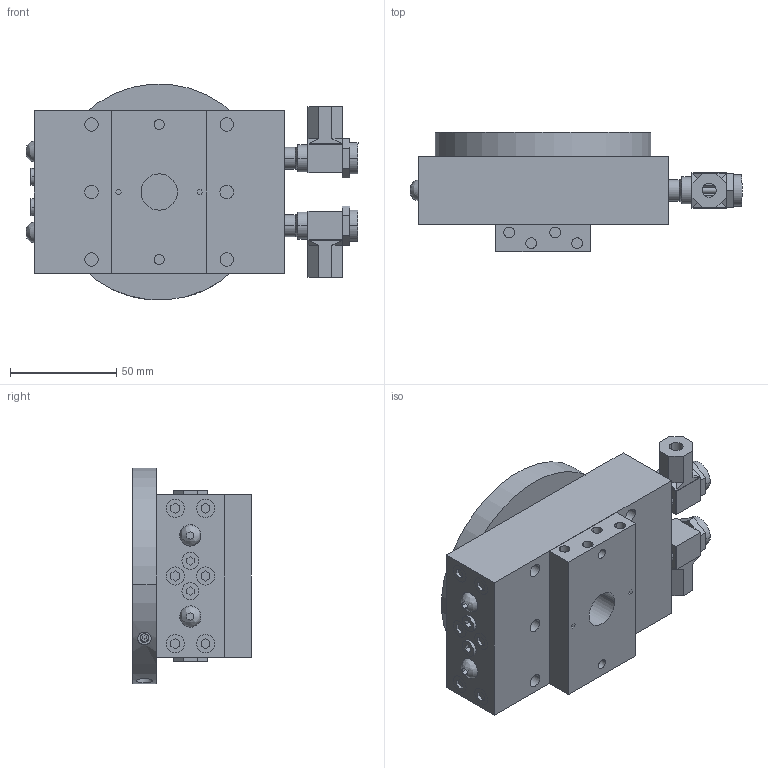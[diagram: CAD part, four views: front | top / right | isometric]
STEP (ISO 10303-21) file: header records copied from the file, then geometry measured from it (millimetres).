
FILE_DESCRIPTION (( 'STEP AP203' ), '1' );
FILE_NAME ('AGR-3 60-180M in MM.STEP', '2014-11-05T18:55:17', ( 'setup' ), ( '' ), 'SwSTEP 2.0', 'SolidWorks 2013', '' );
FILE_SCHEMA (( 'CONFIG_CONTROL_DESIGN' ));
Length unit declared in the file: millimetre
Products named in the file (12): AGR-3 NUTT; AGR-3 180 BODY; AGR-3 CONTROL; AGR-3 MISC; AGR-3 ROTARY PLATFORM; AGR-3 ROUND NUT; AGR-3 NUT; AGR-3 MOUNT; AGR-3 SCREW; AGR-3 60-180M in MM; AGR-3 MISC2; AGR-3 NUT3
Assembly tree (20 placements, depth 2):
  AGR-3 60-180M in MM
    AGR-3 180 BODY
    AGR-3 NUT  x4
    AGR-3 SCREW  x2
    AGR-3 MISC2  x2
    AGR-3 NUT3  x2
    AGR-3 NUTT  x2
    AGR-3 CONTROL  x2
    AGR-3 MISC
    AGR-3 ROTARY PLATFORM
    AGR-3 ROUND NUT  x2
    AGR-3 MOUNT
Bounding box: 155.99 x 55.88 x 101.28 mm (x, y, z)
Volume: 405233.6 mm3; surface area: 85486.9 mm2
Topology: 20 solids, 21 shells, 505 faces, 1099 edges, 714 vertices
Faces by surface type: plane 320, cylinder 179, cone 4, bspline 2
Entity records: 11134 total; most frequent: CARTESIAN_POINT 1988, DIRECTION 1691, ORIENTED_EDGE 1450, EDGE_CURVE 725, AXIS2_PLACEMENT_3D 629, VERTEX_POINT 474, LINE 433, VECTOR 433
